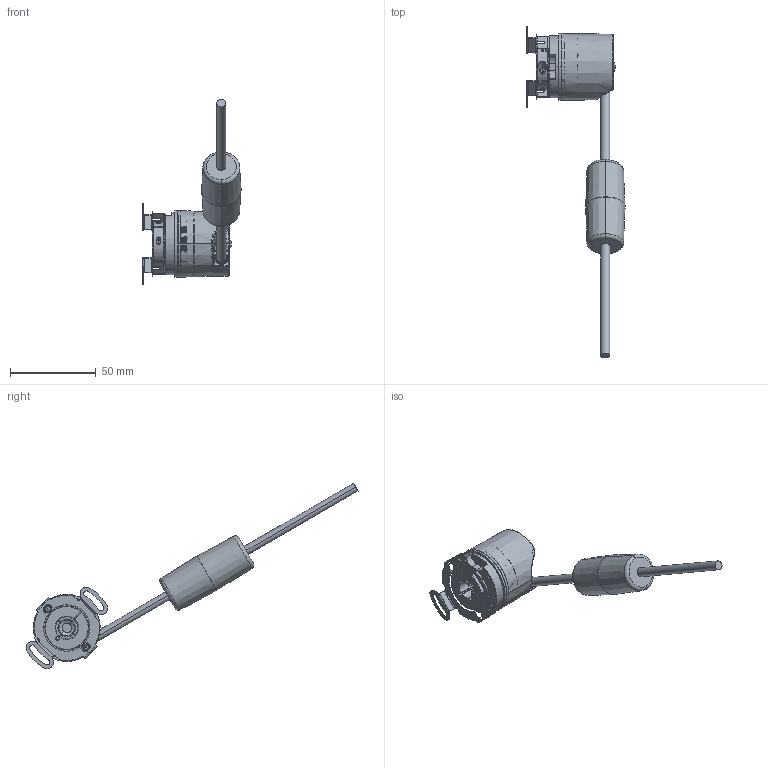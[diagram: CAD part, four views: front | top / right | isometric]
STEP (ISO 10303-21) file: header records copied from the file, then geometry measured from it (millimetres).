
FILE_DESCRIPTION (( 'STEP AP214' ), '1' );
FILE_NAME ('F3688.2421.XXXX.STEP', '2010-02-17T11:22:58', ( 'admin' ), ( 'Fritz Kübler GmbH' ), 'SwSTEP 2.0', 'SolidWorks 2009', '' );
FILE_SCHEMA (( 'AUTOMOTIVE_DESIGN' ));
Length unit declared in the file: millimetre
Products named in the file (1): F3688.2421.XXXX
Bounding box: 57.1 x 193.11 x 107.83 mm (x, y, z)
Volume: 28605.2 mm3; surface area: 35227.9 mm2
Topology: 13 solids, 14 shells, 1387 faces, 3412 edges, 2094 vertices
Faces by surface type: plane 430, cylinder 350, bspline 286, cone 168, torus 139, sphere 14
Entity records: 64103 total; most frequent: CARTESIAN_POINT 17876, ORIENTED_EDGE 6784, DIRECTION 5974, EDGE_CURVE 3392, AXIS2_PLACEMENT_3D 2292, VERTEX_POINT 2094, EDGE_LOOP 1478, UNCERTAINTY_MEASURE_WITH_UNIT 1402
